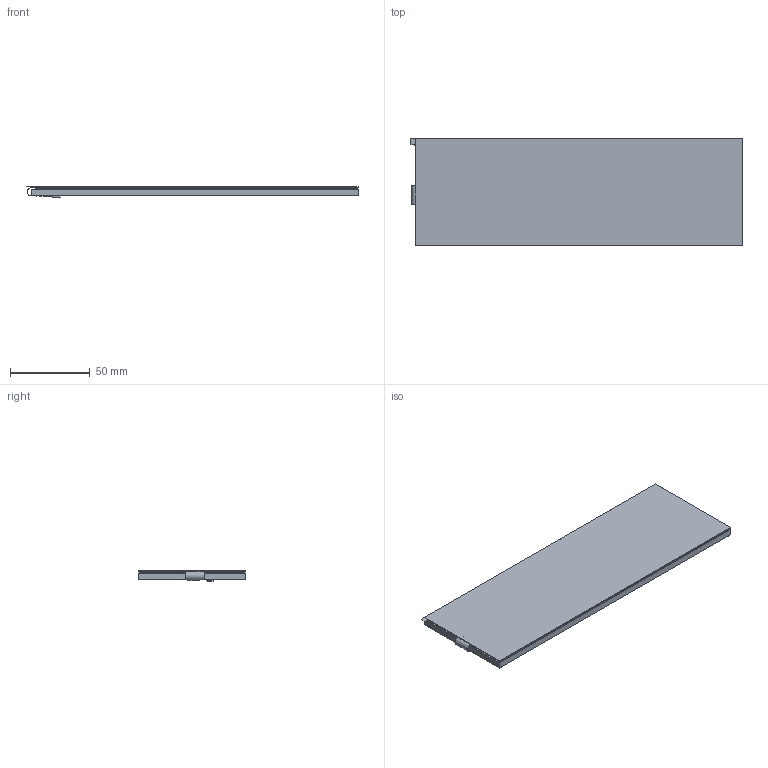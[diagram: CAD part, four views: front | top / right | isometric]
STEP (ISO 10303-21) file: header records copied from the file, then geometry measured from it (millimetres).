
FILE_DESCRIPTION(('FreeCAD Model'),'2;1');
FILE_NAME('Open CASCADE Shape Model','2026-05-27T14:11:11',(''),(''), 'Open CASCADE STEP processor 7.8','FreeCAD','Unknown');
FILE_SCHEMA(('AUTOMOTIVE_DESIGN { 1 0 10303 214 1 1 1 1 }'));
Length unit declared in the file: millimetre
Products named in the file (1): Body
Bounding box: 208.6 x 67.04 x 6.54 mm (x, y, z)
Volume: 71761.7 mm3; surface area: 82495.9 mm2
Topology: 1 solids, 2 shells, 251 faces, 669 edges, 429 vertices
Faces by surface type: plane 238, cylinder 13
Entity records: 7531 total; most frequent: CARTESIAN_POINT 1325, ORIENTED_EDGE 1316, DIRECTION 1181, EDGE_CURVE 653, LINE 627, VECTOR 627, VERTEX_POINT 421, AXIS2_PLACEMENT_3D 277
